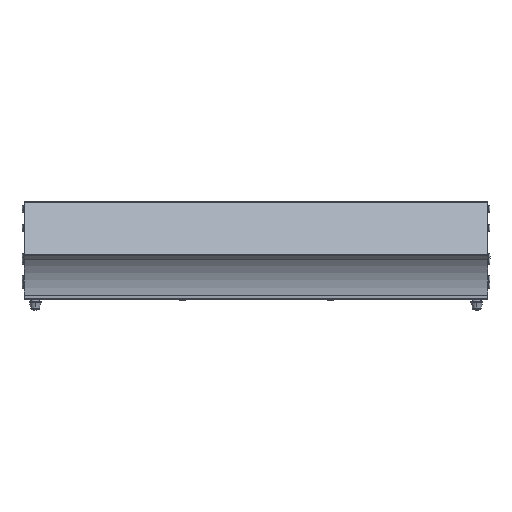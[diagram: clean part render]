
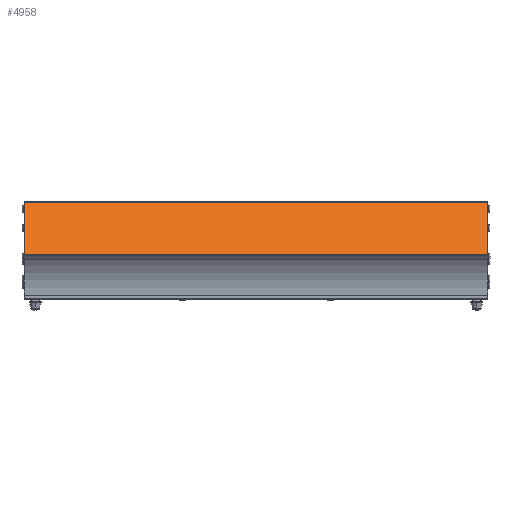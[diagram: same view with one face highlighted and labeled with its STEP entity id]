
A CAD part, top view. The second image highlights one B-rep face of the part: STEP entity #4958.
In plain terms, the highlighted planar face has unit normal (0, 0.662, 0.75).
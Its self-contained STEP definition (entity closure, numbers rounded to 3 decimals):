
#337 = CARTESIAN_POINT ( 'NONE',  ( 501., 47.82, 17.491 ) ) ;
#857 = VECTOR ( 'NONE', #2479, 1000. ) ;
#882 = EDGE_CURVE ( 'NONE', #10978, #2224, #1287, .T. ) ;
#1287 = LINE ( 'NONE', #337, #2889 ) ;
#1327 = CARTESIAN_POINT ( 'NONE',  ( 501., 47.82, 17.491 ) ) ;
#1482 = ORIENTED_EDGE ( 'NONE', *, *, #1736, .T. ) ;
#1534 = LINE ( 'NONE', #3783, #3261 ) ;
#1735 = LINE ( 'NONE', #6900, #10475 ) ;
#1736 = EDGE_CURVE ( 'NONE', #2224, #4689, #2197, .T. ) ;
#2176 = AXIS2_PLACEMENT_3D ( 'NONE', #5982, #3394, #4250 ) ;
#2197 = LINE ( 'NONE', #4168, #857 ) ;
#2224 = VERTEX_POINT ( 'NONE', #2654 ) ;
#2479 = DIRECTION ( 'NONE',  ( -1., 0., 0. ) ) ;
#2654 = CARTESIAN_POINT ( 'NONE',  ( 501., 104.53, -32.557 ) ) ;
#2780 = ORIENTED_EDGE ( 'NONE', *, *, #882, .T. ) ;
#2889 = VECTOR ( 'NONE', #3031, 1000. ) ;
#3031 = DIRECTION ( 'NONE',  ( 0., 0.75, -0.662 ) ) ;
#3261 = VECTOR ( 'NONE', #8939, 1000. ) ;
#3394 = DIRECTION ( 'NONE',  ( 0., 0.662, 0.75 ) ) ;
#3783 = CARTESIAN_POINT ( 'NONE',  ( 0., 47.82, 17.491 ) ) ;
#4136 = PLANE ( 'NONE',  #2176 ) ;
#4168 = CARTESIAN_POINT ( 'NONE',  ( 891., 104.53, -32.557 ) ) ;
#4250 = DIRECTION ( 'NONE',  ( -0.002, 0.75, -0.662 ) ) ;
#4526 = CARTESIAN_POINT ( 'NONE',  ( 0., 104.53, -32.557 ) ) ;
#4689 = VERTEX_POINT ( 'NONE', #4526 ) ;
#4958 = ADVANCED_FACE ( 'NONE', ( #5071 ), #4136, .T. ) ;
#5071 = FACE_OUTER_BOUND ( 'NONE', #7458, .T. ) ;
#5649 = EDGE_CURVE ( 'NONE', #6917, #10978, #1735, .T. ) ;
#5857 = ORIENTED_EDGE ( 'NONE', *, *, #10927, .F. ) ;
#5936 = DIRECTION ( 'NONE',  ( 1., 0., 0. ) ) ;
#5982 = CARTESIAN_POINT ( 'NONE',  ( -109., 104.53, -32.557 ) ) ;
#6900 = CARTESIAN_POINT ( 'NONE',  ( -109., 47.82, 17.491 ) ) ;
#6917 = VERTEX_POINT ( 'NONE', #9019 ) ;
#7458 = EDGE_LOOP ( 'NONE', ( #10050, #2780, #1482, #5857 ) ) ;
#8939 = DIRECTION ( 'NONE',  ( 0., 0.75, -0.662 ) ) ;
#9019 = CARTESIAN_POINT ( 'NONE',  ( 0., 47.82, 17.491 ) ) ;
#10050 = ORIENTED_EDGE ( 'NONE', *, *, #5649, .T. ) ;
#10475 = VECTOR ( 'NONE', #5936, 1000. ) ;
#10927 = EDGE_CURVE ( 'NONE', #6917, #4689, #1534, .T. ) ;
#10978 = VERTEX_POINT ( 'NONE', #1327 ) ;
